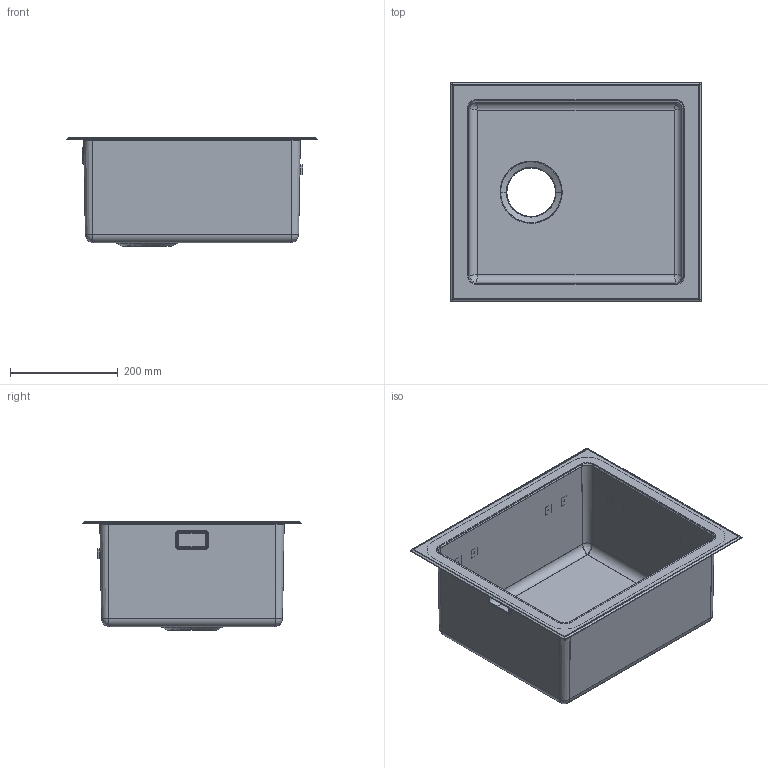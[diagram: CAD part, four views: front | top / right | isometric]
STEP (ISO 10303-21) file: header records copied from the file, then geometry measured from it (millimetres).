
FILE_DESCRIPTION(('CATIA V5 STEP Exchange'),'2;1');
FILE_NAME('\\sr02\Apell\Disegni\DISEGNI\LAVELLI\Radius\STP\4200224.stp','2017-10-17T13:31:08+00:00',('none'),('none'),'CATIA Version 5-6 Release 2014','CATIA V5 STEP AP203','none');
FILE_SCHEMA(('CONFIG_CONTROL_DESIGN'));
Length unit declared in the file: millimetre
Products named in the file (1): Assieme
Assembly tree (6 placements, depth 2):
  Assieme
    #57
    #8422
    #10792  x4
Bounding box: 466 x 407 x 200.9 mm (x, y, z)
Volume: 390305.5 mm3; surface area: 969571.9 mm2
Topology: 6 solids, 6 shells, 286 faces, 700 edges, 416 vertices
Faces by surface type: cylinder 116, plane 98, bspline 64, sphere 8
Entity records: 11637 total; most frequent: CARTESIAN_POINT 7485, ORIENTED_EDGE 936, DIRECTION 594, EDGE_CURVE 468, VERTEX_POINT 272, AXIS2_PLACEMENT_3D 236, EDGE_LOOP 224, ADVANCED_FACE 208
